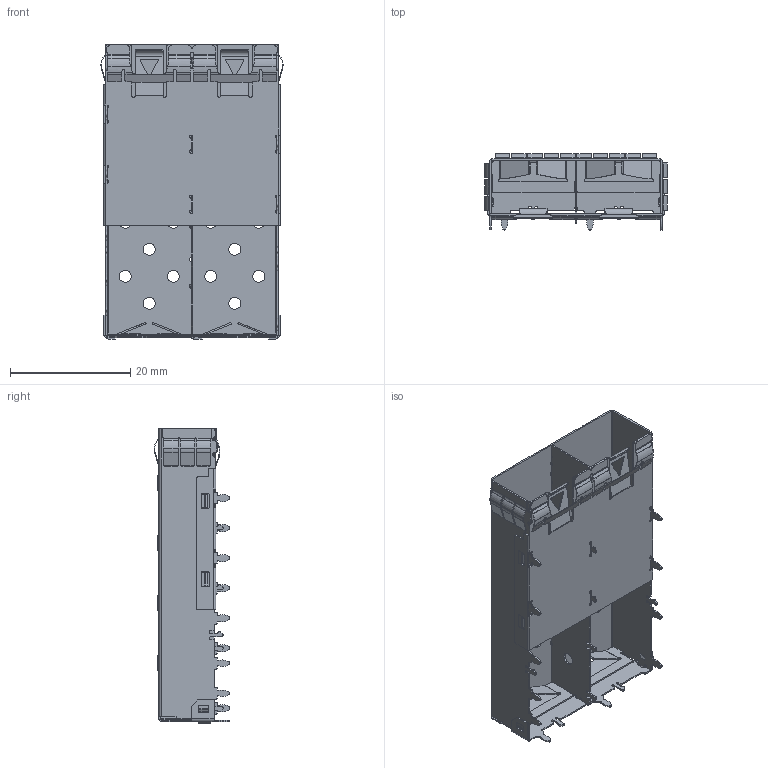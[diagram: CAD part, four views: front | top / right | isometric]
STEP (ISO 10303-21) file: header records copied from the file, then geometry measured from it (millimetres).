
FILE_DESCRIPTION (( 'STEP AP203' ), '1' );
FILE_NAME ('10710612W078 3D(諦誧芞).STEP', '2023-10-31T01:31:50', ( '' ), ( '' ), 'SwSTEP 2.0', 'SolidWorks 2016', '' );
FILE_SCHEMA (( 'CONFIG_CONTROL_DESIGN' ));
Products named in the file (2): 錨璃31^10710612W078 3D(諦誧芞); 10710612W078 3D(諦誧芞)
Assembly tree (1 placements, depth 2):
  10710612W078 3D(諦誧芞)
    錨璃31^10710612W078 3D(諦誧芞)
Bounding box: 30.31 x 12.58 x 48.95 mm (x, y, z)
Volume: 1020.9 mm3; surface area: 8742.7 mm2
Topology: 1 solids, 1 shells, 1497 faces, 4604 edges, 3018 vertices
Faces by surface type: cylinder 799, plane 654, bspline 44
Entity records: 54000 total; most frequent: CARTESIAN_POINT 11538, ORIENTED_EDGE 9208, DIRECTION 8859, EDGE_CURVE 4604, AXIS2_PLACEMENT_3D 3034, VERTEX_POINT 3018, LINE 2791, VECTOR 2791
